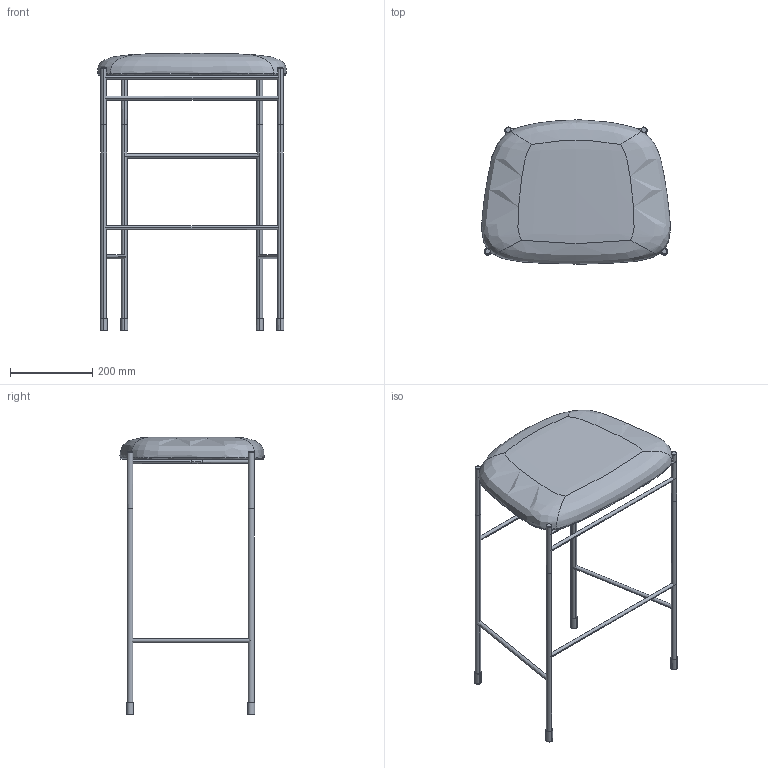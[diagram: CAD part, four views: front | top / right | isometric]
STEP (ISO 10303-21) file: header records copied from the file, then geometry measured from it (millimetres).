
FILE_DESCRIPTION(/* description */ (''),/* implementation_level */ '2;1');
FILE_NAME(/* name */ 'Covent Bar Stool 65',/* time_stamp */ '2019-04-16T16:32:23+02:00',/* author */ (''),/* organization */ (''),/* preprocessor_version */ 'ST-DEVELOPER v15',/* originating_system */ '',/* authorisation */ '');
FILE_SCHEMA (('AUTOMOTIVE_DESIGN'));
Length unit declared in the file: millimetre
Products named in the file (11): Document; Component12; Component3; Component16; Component6; Component4; Component8; Component9; Component10; Component5; Component15
Assembly tree (10 placements, depth 2):
  Document
    Component12
    Component3
    Component16
    Component6
    Component4
    Component8
    Component9
    Component10
    Component5
    Component15
Bounding box: 458.83 x 350.78 x 674.79 mm (x, y, z)
Volume: 8576799.9 mm3; surface area: 823825.5 mm2
Topology: 18 solids, 18 shells, 116 faces, 250 edges, 170 vertices
Faces by surface type: bspline 82, plane 34
Entity records: 7273 total; most frequent: CARTESIAN_POINT 5278, ORIENTED_EDGE 500, EDGE_CURVE 250, VERTEX_POINT 170, EDGE_LOOP 124, ADVANCED_FACE 116, FACE_OUTER_BOUND 116, DIRECTION 98
